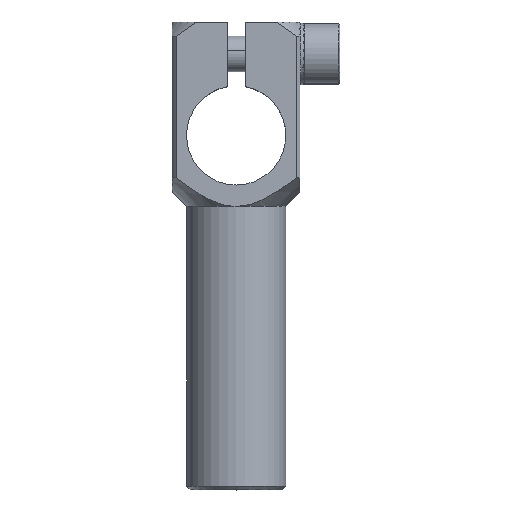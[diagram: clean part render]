
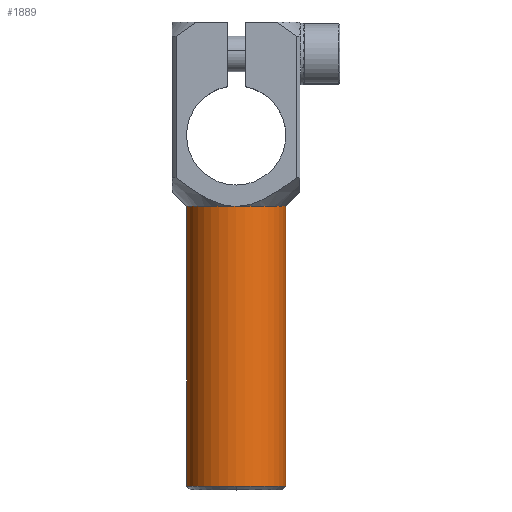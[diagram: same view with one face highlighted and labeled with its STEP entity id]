
A CAD part, top view. The second image highlights one B-rep face of the part: STEP entity #1889.
In plain terms, the highlighted cylindrical face has radius 7 mm (diameter 14 mm), a partial arc.
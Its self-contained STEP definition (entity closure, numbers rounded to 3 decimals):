
#241 = VECTOR ( 'NONE', #1654, 1000. ) ;
#735 = CARTESIAN_POINT ( 'NONE',  ( 23.822, -21.341, 0. ) ) ;
#844 = DIRECTION ( 'NONE',  ( 0., 0., -1. ) ) ;
#1150 = EDGE_CURVE ( 'NONE', #2832, #5758, #9959, .T. ) ;
#1178 = VERTEX_POINT ( 'NONE', #4513 ) ;
#1654 = DIRECTION ( 'NONE',  ( 0., -1., 0. ) ) ;
#1655 = CARTESIAN_POINT ( 'NONE',  ( 23.822, 18.159, 7. ) ) ;
#1677 = DIRECTION ( 'NONE',  ( 0., 0., 1. ) ) ;
#1748 = CARTESIAN_POINT ( 'NONE',  ( 30.822, 18.159, 0. ) ) ;
#1786 = CARTESIAN_POINT ( 'NONE',  ( 30.822, -21.341, 0. ) ) ;
#1889 = ADVANCED_FACE ( 'NONE', ( #9800 ), #5322, .T. ) ;
#2690 = DIRECTION ( 'NONE',  ( 0., -1., 0. ) ) ;
#2832 = VERTEX_POINT ( 'NONE', #4902 ) ;
#2879 = CARTESIAN_POINT ( 'NONE',  ( 23.822, -21.341, 0. ) ) ;
#3118 = AXIS2_PLACEMENT_3D ( 'NONE', #2879, #9469, #3831 ) ;
#3522 = ORIENTED_EDGE ( 'NONE', *, *, #10815, .F. ) ;
#3831 = DIRECTION ( 'NONE',  ( 0., 0., 1. ) ) ;
#3952 = CIRCLE ( 'NONE', #3118, 7. ) ;
#4451 = CARTESIAN_POINT ( 'NONE',  ( 16.822, -21.341, 0. ) ) ;
#4498 = VERTEX_POINT ( 'NONE', #1786 ) ;
#4513 = CARTESIAN_POINT ( 'NONE',  ( 30.822, 18.159, 0. ) ) ;
#4745 = EDGE_LOOP ( 'NONE', ( #9818, #5967, #4910, #6405, #3522, #10142 ) ) ;
#4902 = CARTESIAN_POINT ( 'NONE',  ( 16.822, 18.159, 0. ) ) ;
#4910 = ORIENTED_EDGE ( 'NONE', *, *, #10335, .T. ) ;
#5027 = VERTEX_POINT ( 'NONE', #5380 ) ;
#5041 = LINE ( 'NONE', #1748, #9738 ) ;
#5311 = VERTEX_POINT ( 'NONE', #1655 ) ;
#5322 = CYLINDRICAL_SURFACE ( 'NONE', #11354, 7. ) ;
#5350 = CARTESIAN_POINT ( 'NONE',  ( 23.822, 18.159, 0. ) ) ;
#5380 = CARTESIAN_POINT ( 'NONE',  ( 23.822, -21.341, 7. ) ) ;
#5758 = VERTEX_POINT ( 'NONE', #4451 ) ;
#5904 = CIRCLE ( 'NONE', #8305, 7. ) ;
#5967 = ORIENTED_EDGE ( 'NONE', *, *, #1150, .T. ) ;
#6300 = DIRECTION ( 'NONE',  ( 0., 0., -1. ) ) ;
#6405 = ORIENTED_EDGE ( 'NONE', *, *, #9155, .T. ) ;
#6487 = DIRECTION ( 'NONE',  ( 0., 1., 0. ) ) ;
#7125 = EDGE_CURVE ( 'NONE', #5311, #1178, #9126, .T. ) ;
#7237 = EDGE_CURVE ( 'NONE', #2832, #5311, #5904, .T. ) ;
#7275 = AXIS2_PLACEMENT_3D ( 'NONE', #5350, #11925, #6300 ) ;
#7332 = DIRECTION ( 'NONE',  ( 0., 1., 0. ) ) ;
#7492 = AXIS2_PLACEMENT_3D ( 'NONE', #735, #7332, #1677 ) ;
#8253 = CARTESIAN_POINT ( 'NONE',  ( 16.822, 18.159, 0. ) ) ;
#8305 = AXIS2_PLACEMENT_3D ( 'NONE', #12121, #6487, #844 ) ;
#9126 = CIRCLE ( 'NONE', #7275, 7. ) ;
#9155 = EDGE_CURVE ( 'NONE', #5027, #4498, #3952, .T. ) ;
#9446 = DIRECTION ( 'NONE',  ( 0., -1., 0. ) ) ;
#9469 = DIRECTION ( 'NONE',  ( 0., 1., 0. ) ) ;
#9488 = DIRECTION ( 'NONE',  ( 1., 0., 0. ) ) ;
#9738 = VECTOR ( 'NONE', #2690, 1000. ) ;
#9800 = FACE_OUTER_BOUND ( 'NONE', #4745, .T. ) ;
#9818 = ORIENTED_EDGE ( 'NONE', *, *, #7237, .F. ) ;
#9959 = LINE ( 'NONE', #8253, #241 ) ;
#10142 = ORIENTED_EDGE ( 'NONE', *, *, #7125, .F. ) ;
#10212 = CIRCLE ( 'NONE', #7492, 7. ) ;
#10335 = EDGE_CURVE ( 'NONE', #5758, #5027, #10212, .T. ) ;
#10815 = EDGE_CURVE ( 'NONE', #1178, #4498, #5041, .T. ) ;
#11339 = CARTESIAN_POINT ( 'NONE',  ( 23.822, 18.159, 0. ) ) ;
#11354 = AXIS2_PLACEMENT_3D ( 'NONE', #11339, #9446, #9488 ) ;
#11925 = DIRECTION ( 'NONE',  ( 0., 1., 0. ) ) ;
#12121 = CARTESIAN_POINT ( 'NONE',  ( 23.822, 18.159, 0. ) ) ;
